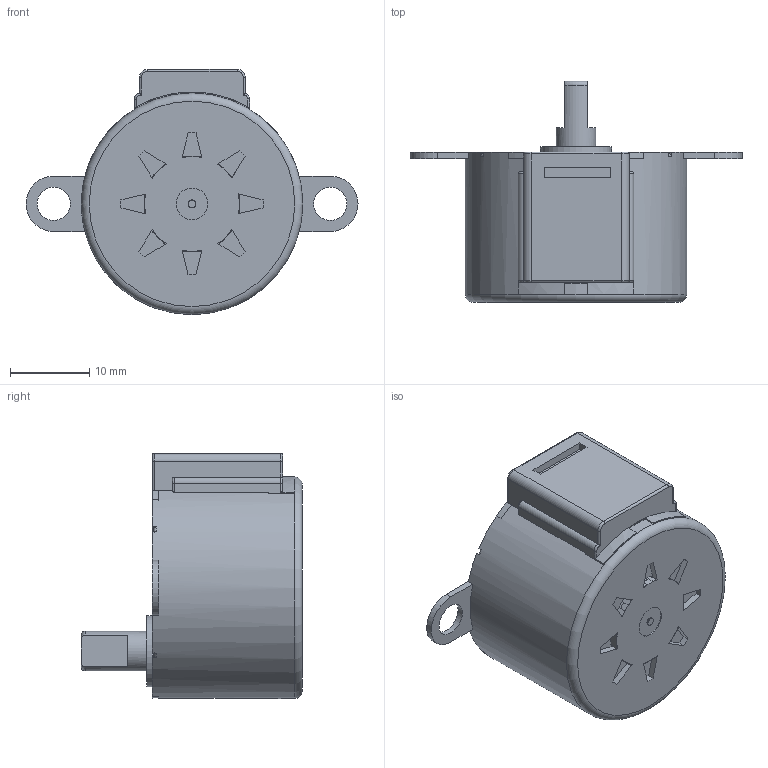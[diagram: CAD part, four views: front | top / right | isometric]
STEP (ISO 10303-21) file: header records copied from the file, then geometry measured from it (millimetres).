
FILE_DESCRIPTION(/* description */ (''),/* implementation_level */ '2;1');
FILE_NAME(/* name */ '/Users/achimpieters/Desktop/28BYJ-48 v5.step',/* time_stamp */ '2021-01-06T18:01:03+01:00',/* author */ (''),/* organization */ (''),/* preprocessor_version */ 'ST-DEVELOPER v18.1',/* originating_system */ 'Autodesk Translation Framework v9.7.0.1280',/* authorisation */ '');
FILE_SCHEMA (('AUTOMOTIVE_DESIGN { 1 0 10303 214 3 1 1 }'));
Products named in the file (9): 28BYJ-48; Spur Gear (24 teeth); Spur Gear (8 teeth); Spur Gear (27 teeth); Spur Gear (9 teeth); Spur Gear (22 teeth); Spur Gear (11 teeth); Spur Gear (32 teeth); Spur Gear (9 teeth) (1)
Assembly tree (8 placements, depth 2):
  28BYJ-48
    Spur Gear (24 teeth)
    Spur Gear (8 teeth)
    Spur Gear (27 teeth)
    Spur Gear (9 teeth)
    Spur Gear (22 teeth)
    Spur Gear (11 teeth)
    Spur Gear (32 teeth)
    Spur Gear (9 teeth) (1)
Bounding box: 42 x 28.05 x 31 mm (x, y, z)
Volume: 9362.2 mm3; surface area: 19452.5 mm2
Topology: 23 solids, 23 shells, 1858 faces, 5338 edges, 3488 vertices
Faces by surface type: cylinder 835, plane 719, bspline 284, torus 19, sphere 1
Full cylindrical faces by diameter (mm): 1 x18, 4 x2, 4.2 x2, 5 x1, 8.2 x2, 9 x1, 10 x1, 12 x4, 12.8 x1, 13 x1, 24 x2, 26.4 x2, 26.6 x7, 28 x1
Entity records: 142547 total; most frequent: CARTESIAN_POINT 94694, ORIENTED_EDGE 10674, DIRECTION 9664, EDGE_CURVE 5337, VERTEX_POINT 3488, AXIS2_PLACEMENT_3D 3446, LINE 2772, VECTOR 2772
